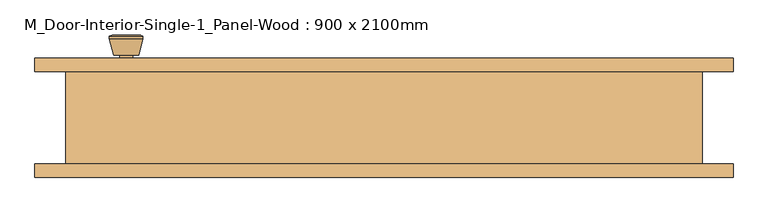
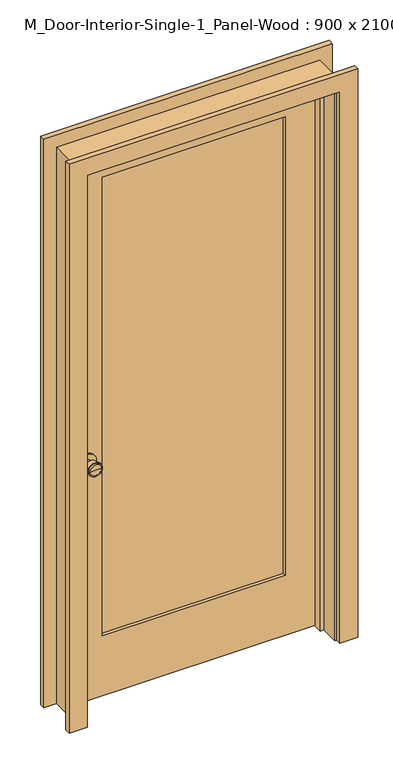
"""IFC4 building model written with IfcOpenShell, lengths in millimetres: door geometry, M_Door-Interior-Single-1_Panel-Wood : 900 x 2100mm."""

from ifc_helpers import new_model, si_unit, point, frame, frame_2d, origin, place, context, project, spatial, polyline, circle_curve, trimmed, segment, composite_curve, outline, extrude, faceted_brep, source, transform, mapped, element, save
from ifc_brep_helpers import plane_surface, cylinder_surface, revolved_surface, advanced_brep


def m_door_interior_single_1_panel_wood_900_x_2100mm_26619124(model_context):
    return source(origin(), model_context, "Body", "SolidModel", [
        advanced_brep(
        [(-385.0, 25.075, 914.4), (-375.0, 25.075, 914.4), (-395.0, 25.075, 914.4), (-364.5241324, -23.925, 914.4), (-385.0, -23.925, 914.4), (-405.4758676, -23.925, 914.4), (-360.0, -22.0971319, 914.4), (-410.0, -22.0971319, 914.4), (-360.0, -18.6334537, 914.4), (-410.0, -18.6334537, 914.4), (-366.363764, 6.075, 914.4), (-403.636236, 6.075, 914.4), (-375.0, 6.075, 914.4), (-395.0, 6.075, 914.4)],
        [
            (0, 1),
            (1, 2, circle_curve(frame((-385.0, 25.075, 914.4), z_axis=(0.0, 1.0, 0.0), x_axis=(-1.0, 0.0, 0.0)), 10.0)),
            (2, 0),
            (2, 1, circle_curve(frame((-385.0, 25.075, 914.4), z_axis=(0.0, 1.0, 0.0), x_axis=(-1.0, 0.0, 0.0)), 10.0)),
            (3, 4),
            (4, 5),
            (5, 3, circle_curve(frame((-385.0, -23.925, 914.4), z_axis=(0.0, -1.0, 0.0), x_axis=(-1.0, 0.0, 0.0)), 20.4758676)),
            (3, 5, circle_curve(frame((-385.0, -23.925, 914.4), z_axis=(0.0, -1.0, 0.0), x_axis=(-1.0, 0.0, 0.0)), 20.4758676)),
            (6, 3),
            (5, 7),
            (7, 6, circle_curve(frame((-385.0, -22.0971319, 914.4), z_axis=(0.0, -1.0, 0.0), x_axis=(-1.0, 0.0, 0.0)), 25.0)),
            (6, 7, circle_curve(frame((-385.0, -22.0971319, 914.4), z_axis=(0.0, -1.0, 0.0), x_axis=(-1.0, 0.0, 0.0)), 25.0)),
            (8, 6),
            (7, 9),
            (9, 8, circle_curve(frame((-385.0, -18.6334537, 914.4), z_axis=(0.0, -1.0, 0.0), x_axis=(-1.0, 0.0, 0.0)), 25.0)),
            (8, 9, circle_curve(frame((-385.0, -18.6334537, 914.4), z_axis=(0.0, -1.0, 0.0), x_axis=(-1.0, 0.0, 0.0)), 25.0)),
            (10, 8),
            (9, 11),
            (11, 10, circle_curve(frame((-385.0, 6.075, 914.4), z_axis=(0.0, -1.0, 0.0), x_axis=(-1.0, 0.0, 0.0)), 18.636236)),
            (10, 11, circle_curve(frame((-385.0, 6.075, 914.4), z_axis=(0.0, -1.0, 0.0), x_axis=(-1.0, 0.0, 0.0)), 18.636236)),
            (12, 10),
            (11, 13),
            (13, 12, circle_curve(frame((-385.0, 6.075, 914.4), z_axis=(0.0, -1.0, 0.0), x_axis=(-1.0, 0.0, 0.0)), 10.0)),
            (12, 13, circle_curve(frame((-385.0, 6.075, 914.4), z_axis=(0.0, -1.0, 0.0), x_axis=(-1.0, 0.0, 0.0)), 10.0)),
            (1, 12),
            (13, 2),
        ],
        [
            plane_surface(frame((-385.0, 25.075, 914.4), z_axis=(0.0, 1.0, 0.0), x_axis=(-1.0, 0.0, 0.0))),
            plane_surface(frame((-385.0, -23.925, 914.4), z_axis=(0.0, -1.0, 0.0), x_axis=(-1.0, 0.0, 0.0))),
            revolved_surface(polyline([(-405.4758676, -23.925, 914.4), (-410.0, -22.0971319, 914.4)]), (-385.0, 25.075, 914.4), (0.0, 1.0, 0.0)),
            cylinder_surface(frame((-385.0, 25.075, 914.4), z_axis=(0.0, 1.0, 0.0), x_axis=(-1.0, 0.0, 0.0)), 25.0),
            revolved_surface(polyline([(-410.0, -18.6334537, 914.4), (-403.636236, 6.075, 914.4)]), (-385.0, 25.075, 914.4), (0.0, 1.0, 0.0)),
            plane_surface(frame((-385.0, 6.075, 914.4), z_axis=(0.0, 1.0, 0.0), x_axis=(-1.0, 0.0, 0.0))),
            cylinder_surface(frame((-385.0, 25.075, 914.4), z_axis=(0.0, 1.0, 0.0), x_axis=(-1.0, 0.0, 0.0)), 10.0),
        ],
        [
            (0, [[1, 2, 3]]),
            (0, [[-3, 4, -1]]),
            (1, [[5, 6, 7]]),
            (1, [[-6, -5, 8]]),
            (2, [[9, -7, 10, 11]]),
            (2, [[-10, -8, -9, 12]]),
            (3, [[13, -11, 14, 15]]),
            (3, [[-14, -12, -13, 16]]),
            (4, [[17, -15, 18, 19]]),
            (4, [[-18, -16, -17, 20]]),
            (5, [[21, -19, 22, 23]]),
            (5, [[-22, -20, -21, 24]]),
            (6, [[25, -23, 26, -2]]),
            (6, [[-26, -24, -25, -4]]),
        ],
    ),
        extrude(outline(composite_curve([segment(trimmed(circle_curve(frame_2d((914.4, -385.0)), 30.0), [point((914.4, -415.0))], [point((914.4, -355.0))], False, "CARTESIAN"), True, "CONTINUOUS"), segment(trimmed(circle_curve(frame_2d((914.4, -385.0)), 30.0), [point((914.4, -355.0))], [point((914.4, -415.0))], False, "CARTESIAN"), True, "CONTINUOUS")], self_intersect=False)), frame((0.0, 25.075, 0.0), z_axis=(0.0, 1.0, 0.0), x_axis=(0.0, 0.0, 1.0)), (0.0, 0.0, 1.0), 6.0),
        advanced_brep(
        [(-385.0, 72.075, 914.4), (-395.0, 72.075, 914.4), (-375.0, 72.075, 914.4), (-364.5241324, 121.075, 914.4), (-405.4758676, 121.075, 914.4), (-385.0, 121.075, 914.4), (-360.0, 119.2471319, 914.4), (-410.0, 119.2471319, 914.4), (-360.0, 115.7834537, 914.4), (-410.0, 115.7834537, 914.4), (-366.363764, 91.075, 914.4), (-403.636236, 91.075, 914.4), (-375.0, 91.075, 914.4), (-395.0, 91.075, 914.4)],
        [
            (0, 1),
            (1, 2, circle_curve(frame((-385.0, 72.075, 914.4), z_axis=(0.0, -1.0, 0.0), x_axis=(-1.0, 0.0, 0.0)), 10.0)),
            (2, 0),
            (2, 1, circle_curve(frame((-385.0, 72.075, 914.4), z_axis=(0.0, -1.0, 0.0), x_axis=(-1.0, 0.0, 0.0)), 10.0)),
            (3, 4, circle_curve(frame((-385.0, 121.075, 914.4), z_axis=(0.0, 1.0, 0.0), x_axis=(-1.0, 0.0, 0.0)), 20.4758676)),
            (4, 5),
            (5, 3),
            (4, 3, circle_curve(frame((-385.0, 121.075, 914.4), z_axis=(0.0, 1.0, 0.0), x_axis=(-1.0, 0.0, 0.0)), 20.4758676)),
            (6, 7, circle_curve(frame((-385.0, 119.2471319, 914.4), z_axis=(0.0, 1.0, 0.0), x_axis=(-1.0, 0.0, 0.0)), 25.0)),
            (7, 4),
            (3, 6),
            (7, 6, circle_curve(frame((-385.0, 119.2471319, 914.4), z_axis=(0.0, 1.0, 0.0), x_axis=(-1.0, 0.0, 0.0)), 25.0)),
            (8, 9, circle_curve(frame((-385.0, 115.7834537, 914.4), z_axis=(0.0, 1.0, 0.0), x_axis=(-1.0, 0.0, 0.0)), 25.0)),
            (9, 7),
            (6, 8),
            (9, 8, circle_curve(frame((-385.0, 115.7834537, 914.4), z_axis=(0.0, 1.0, 0.0), x_axis=(-1.0, 0.0, 0.0)), 25.0)),
            (10, 11, circle_curve(frame((-385.0, 91.075, 914.4), z_axis=(0.0, 1.0, 0.0), x_axis=(-1.0, 0.0, 0.0)), 18.636236)),
            (11, 9),
            (8, 10),
            (11, 10, circle_curve(frame((-385.0, 91.075, 914.4), z_axis=(0.0, 1.0, 0.0), x_axis=(-1.0, 0.0, 0.0)), 18.636236)),
            (12, 13, circle_curve(frame((-385.0, 91.075, 914.4), z_axis=(0.0, 1.0, 0.0), x_axis=(-1.0, 0.0, 0.0)), 10.0)),
            (13, 11),
            (10, 12),
            (13, 12, circle_curve(frame((-385.0, 91.075, 914.4), z_axis=(0.0, 1.0, 0.0), x_axis=(-1.0, 0.0, 0.0)), 10.0)),
            (1, 13),
            (12, 2),
        ],
        [
            plane_surface(frame((-385.0, 72.075, 914.4), z_axis=(0.0, -1.0, 0.0), x_axis=(-1.0, 0.0, 0.0))),
            plane_surface(frame((-385.0, 121.075, 914.4), z_axis=(0.0, 1.0, 0.0), x_axis=(-1.0, 0.0, 0.0))),
            revolved_surface(polyline([(-405.4758676, 121.075, 914.4), (-410.0, 119.2471319, 914.4)]), (-385.0, 72.075, 914.4), (0.0, -1.0, 0.0)),
            cylinder_surface(frame((-385.0, 72.075, 914.4), z_axis=(0.0, -1.0, 0.0), x_axis=(-1.0, 0.0, 0.0)), 25.0),
            revolved_surface(polyline([(-410.0, 115.7834537, 914.4), (-403.636236, 91.075, 914.4)]), (-385.0, 72.075, 914.4), (0.0, -1.0, 0.0)),
            plane_surface(frame((-385.0, 91.075, 914.4), z_axis=(0.0, -1.0, 0.0), x_axis=(-1.0, 0.0, 0.0))),
            cylinder_surface(frame((-385.0, 72.075, 914.4), z_axis=(0.0, -1.0, 0.0), x_axis=(-1.0, 0.0, 0.0)), 10.0),
        ],
        [
            (0, [[1, 2, 3]]),
            (0, [[-3, 4, -1]]),
            (1, [[5, 6, 7]]),
            (1, [[8, -7, -6]]),
            (2, [[9, 10, -5, 11]]),
            (2, [[12, -11, -8, -10]]),
            (3, [[13, 14, -9, 15]]),
            (3, [[16, -15, -12, -14]]),
            (4, [[17, 18, -13, 19]]),
            (4, [[20, -19, -16, -18]]),
            (5, [[21, 22, -17, 23]]),
            (5, [[24, -23, -20, -22]]),
            (6, [[-2, 25, -21, 26]]),
            (6, [[-4, -26, -24, -25]]),
        ],
    ),
        extrude(outline(composite_curve([segment(trimmed(circle_curve(frame_2d((914.4, -385.0)), 30.0), [point((914.4, -415.0))], [point((914.4, -355.0))], False, "CARTESIAN"), True, "CONTINUOUS"), segment(trimmed(circle_curve(frame_2d((914.4, -385.0)), 30.0), [point((914.4, -355.0))], [point((914.4, -415.0))], False, "CARTESIAN"), True, "CONTINUOUS")], self_intersect=False)), frame((0.0, 66.075, 0.0), z_axis=(0.0, 1.0, 0.0), x_axis=(0.0, 0.0, 1.0)), (0.0, 0.0, 1.0), 6.0),
        extrude(outline(polyline([(330.0, 42.7416667), (-330.0, 42.7416667), (-330.0, 54.4083333), (330.0, 54.4083333), (330.0, 42.7416667)])), frame((0.0, 0.0, 230.0), z_axis=(0.0, 0.0, 1.0), x_axis=(1.0, 0.0, 0.0)), (0.0, 0.0, 1.0), 1750.0),
        extrude(outline(polyline([(2100.0, -450.0), (0.0, -450.0), (0.0, 450.0), (2100.0, 450.0), (2100.0, -450.0)]), holes=[polyline([(1980.0, -330.0), (1980.0, 330.0), (230.0, 330.0), (230.0, -330.0), (1980.0, -330.0)])]), frame((0.0, 31.075, 0.0), z_axis=(0.0, 1.0, 0.0), x_axis=(0.0, 0.0, 1.0)), (0.0, 0.0, 1.0), 35.0),
        faceted_brep([(475.0, 66.075, 0.0), (475.0, -72.425, 0.0), (450.0, -72.425, 0.0), (450.0, -3.85, 0.0), (437.3, -3.85, 0.0), (437.3, 31.075, 0.0), (450.0, 31.075, 0.0), (450.0, 66.075, 0.0), (475.0, 66.075, 2125.0), (475.0, -72.425, 2125.0), (-475.0, -72.425, 2125.0), (-475.0, -72.425, 0.0), (-450.0, -72.425, 0.0), (-450.0, -72.425, 2100.0), (450.0, -72.425, 2100.0), (450.0, -3.85, 2100.0), (-450.0, -3.85, 2100.0), (-450.0, -3.85, 0.0), (-437.3, -3.85, 0.0), (-437.3, -3.85, 2087.3), (437.3, -3.85, 2087.3), (437.3, 31.075, 2087.3), (-437.3, 31.075, 2087.3), (-437.3, 31.075, 0.0), (-450.0, 31.075, 0.0), (-450.0, 31.075, 2100.0), (450.0, 31.075, 2100.0), (450.0, 66.075, 2100.0), (-450.0, 66.075, 2100.0), (-450.0, 66.075, 0.0), (-475.0, 66.075, 0.0), (-475.0, 66.075, 2125.0)], [[[0, 1, 2, 3, 4, 5, 6, 7]], [[1, 0, 8, 9]], [[2, 1, 9, 10, 11, 12, 13, 14]], [[3, 2, 14, 15]], [[4, 3, 15, 16, 17, 18, 19, 20]], [[5, 4, 20, 21]], [[6, 5, 21, 22, 23, 24, 25, 26]], [[7, 6, 26, 27]], [[0, 7, 27, 28, 29, 30, 31, 8]], [[9, 8, 31, 10]], [[15, 14, 13, 16]], [[21, 20, 19, 22]], [[27, 26, 25, 28]], [[30, 29, 24, 23, 18, 17, 12, 11]], [[10, 31, 30, 11]], [[16, 13, 12, 17]], [[22, 19, 18, 23]], [[28, 25, 24, 29]]]),
        extrude(outline(polyline([(0.0, 456.35), (0.0, 521.35), (2171.35, 521.35), (2171.35, -521.35), (0.0, -521.35), (0.0, -456.35), (2106.35, -456.35), (2106.35, 456.35), (0.0, 456.35)])), frame((0.0, -92.425, 0.0), z_axis=(0.0, 1.0, 0.0), x_axis=(0.0, 0.0, 1.0)), (0.0, 0.0, 1.0), 20.0),
        extrude(outline(polyline([(0.0, 456.35), (0.0, 521.35), (2171.35, 521.35), (2171.35, -521.35), (0.0, -521.35), (0.0, -456.35), (2106.35, -456.35), (2106.35, 456.35), (0.0, 456.35)])), frame((0.0, 66.075, 0.0), z_axis=(0.0, 1.0, 0.0), x_axis=(0.0, 0.0, 1.0)), (0.0, 0.0, 1.0), 20.0),
    ])


if __name__ == "__main__":
    model = new_model("IFC4")
    model_context = context("Model", 3, world=origin())
    ifc_project = project(units=[si_unit("LENGTHUNIT", "METRE", prefix="MILLI")], contexts=[model_context])
    site = spatial("IfcSite", under=ifc_project)
    building = spatial("IfcBuilding", under=site)
    placement = place(None, origin())
    m_door_interior_single_1_panel_wood_900_x_2100mm_shape = m_door_interior_single_1_panel_wood_900_x_2100mm_26619124(model_context)
    element("IfcDoor", 1, ObjectType="M_Door-Interior-Single-1_Panel-Wood : 900 x 2100mm", at=placement, inside=building, context=model_context, shape_type="MappedRepresentation", body=[
        mapped(m_door_interior_single_1_panel_wood_900_x_2100mm_shape, transform((0.0, 0.0, 0.0), x_axis=(1.0, 0.0, 0.0), y_axis=(0.0, 1.0, 0.0), z_axis=(0.0, 0.0, 1.0))),
    ])
    save(model, "model.ifc")
